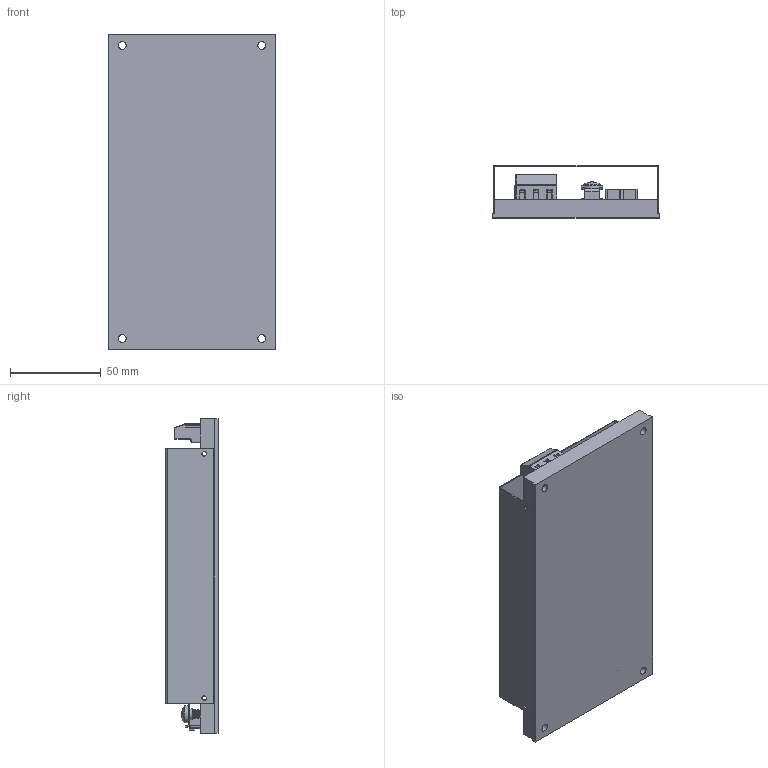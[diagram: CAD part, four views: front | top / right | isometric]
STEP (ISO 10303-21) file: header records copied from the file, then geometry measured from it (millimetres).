
FILE_DESCRIPTION(/* description */ (''),/* implementation_level */ '2;1');
FILE_NAME(/* name */ '',/* time_stamp */ '',/* author */ (''),/* organization */ (''),/* preprocessor_version */ '',/* originating_system */ '',/* authorisation */ '');
FILE_SCHEMA (('AUTOMOTIVE_DESIGN { 1 0 10303 214 3 1 1 }'));
Length unit declared in the file: inch
Products named in the file (1): JETA700-LP_full
Bounding box: 92 x 29 x 174 mm (x, y, z)
Volume: 110679.6 mm3; surface area: 82140.3 mm2
Topology: 2 solids, 7 shells, 760 faces, 1930 edges, 1198 vertices
Faces by surface type: plane 452, cylinder 156, cone 119, torus 25, sphere 6, bspline 2
Full cylindrical faces by diameter (mm): 1 x2, 2 x42, 2.5 x4, 3.8 x1, 4 x4, 4.3 x4, 5 x10, 6.2 x2, 9.5 x2
Entity records: 21966 total; most frequent: CARTESIAN_POINT 3831, DIRECTION 3635, ORIENTED_EDGE 3308, EDGE_CURVE 1651, AXIS2_PLACEMENT_3D 1243, LINE 1149, VECTOR 1149, VERTEX_POINT 1112
